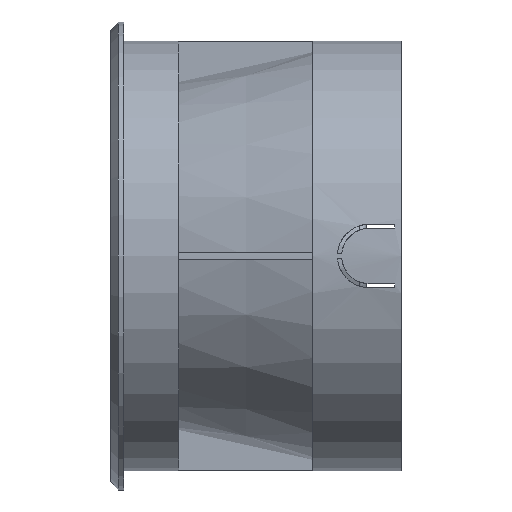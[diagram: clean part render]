
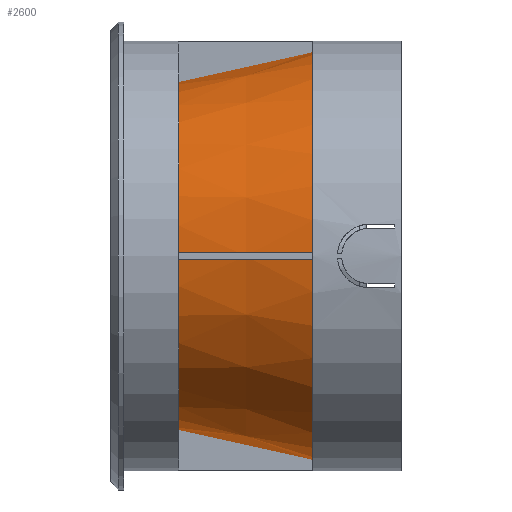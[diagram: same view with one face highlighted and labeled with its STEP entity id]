
A CAD part, left-side view. The second image highlights one B-rep face of the part: STEP entity #2600.
In plain terms, the highlighted conical face has half-angle 12.529 degrees and reference radius 94.6 mm.
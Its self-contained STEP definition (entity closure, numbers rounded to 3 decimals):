
#307=LINE('',#4486,#491);
#308=LINE('',#4487,#492);
#491=VECTOR('',#3398,304.8);
#492=VECTOR('',#3399,304.8);
#708=FACE_OUTER_BOUND('',#892,.T.);
#892=EDGE_LOOP('',(#2099,#2100,#2101,#2102));
#1052=CIRCLE('',#2842,82.);
#1054=CIRCLE('',#2846,96.);
#1237=VERTEX_POINT('',#4475);
#1238=VERTEX_POINT('',#4476);
#1239=VERTEX_POINT('',#4483);
#1240=VERTEX_POINT('',#4484);
#1530=EDGE_CURVE('',#1238,#1237,#1052,.T.);
#1532=EDGE_CURVE('',#1237,#1239,#307,.T.);
#1533=EDGE_CURVE('',#1240,#1238,#308,.T.);
#1534=EDGE_CURVE('',#1240,#1239,#1054,.T.);
#2099=ORIENTED_EDGE('',*,*,#1534,.F.);
#2100=ORIENTED_EDGE('',*,*,#1533,.T.);
#2101=ORIENTED_EDGE('',*,*,#1530,.T.);
#2102=ORIENTED_EDGE('',*,*,#1532,.T.);
#2508=CONICAL_SURFACE('',#2845,94.6,0.219);
#2600=ADVANCED_FACE('',(#708),#2508,.T.);
#2842=AXIS2_PLACEMENT_3D('',#4481,#3392,#3393);
#2845=AXIS2_PLACEMENT_3D('',#4488,#3400,#3401);
#2846=AXIS2_PLACEMENT_3D('',#4489,#3402,#3403);
#3392=DIRECTION('center_axis',(0.,0.,-1.));
#3393=DIRECTION('ref_axis',(-0.588,0.809,0.));
#3398=DIRECTION('',(0.,0.217,-0.976));
#3399=DIRECTION('',(0.,0.217,0.976));
#3400=DIRECTION('center_axis',(0.,0.,
-1.));
#3401=DIRECTION('ref_axis',(-0.588,0.809,0.));
#3402=DIRECTION('center_axis',(0.,0.,-1.));
#3403=DIRECTION('ref_axis',(-0.588,0.809,0.));
#4475=CARTESIAN_POINT('',(0.,82.,-26.));
#4476=CARTESIAN_POINT('',(0.,-82.,-26.));
#4481=CARTESIAN_POINT('Origin',(0.,0.,
-26.));
#4483=CARTESIAN_POINT('',(0.,96.,-89.));
#4484=CARTESIAN_POINT('',(0.,-96.,-89.));
#4486=CARTESIAN_POINT('',(0.,82.,-26.));
#4487=CARTESIAN_POINT('',(0.,-96.,-89.));
#4488=CARTESIAN_POINT('Origin',(0.,0.,-82.7));
#4489=CARTESIAN_POINT('Origin',(0.,0.,
-89.));
